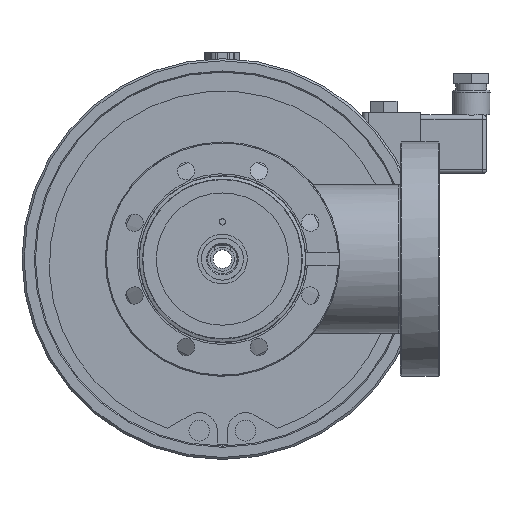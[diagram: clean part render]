
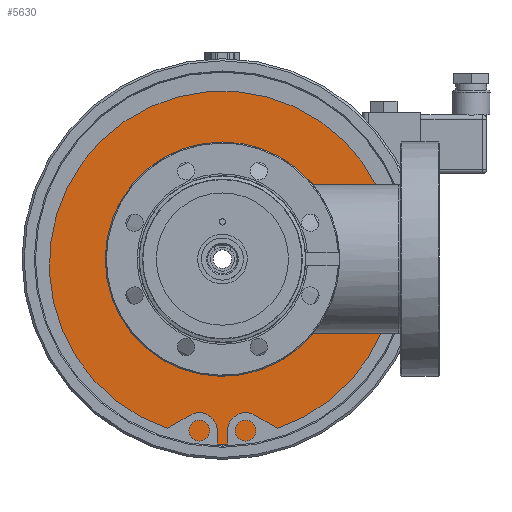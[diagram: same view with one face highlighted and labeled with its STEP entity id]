
A CAD part, left-side view. The second image highlights one B-rep face of the part: STEP entity #5630.
In plain terms, the highlighted planar face has unit normal (-1, 0, 0).
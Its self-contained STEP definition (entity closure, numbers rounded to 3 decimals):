
#4043=PLANE('',#20142);
#4770=FACE_BOUND('',#7572,.T.);
#4771=FACE_BOUND('',#7573,.T.);
#5630=ADVANCED_FACE('',(#4770,#4771),#4043,.T.);
#7572=EDGE_LOOP('',(#10875));
#7573=EDGE_LOOP('',(#10876));
#10875=ORIENTED_EDGE('',*,*,#17102,.T.);
#10876=ORIENTED_EDGE('',*,*,#17101,.F.);
#15272=VERTEX_POINT('',#26440);
#15273=VERTEX_POINT('',#26443);
#17101=EDGE_CURVE('',#15272,#15272,#19324,.T.);
#17102=EDGE_CURVE('',#15273,#15273,#19325,.T.);
#19324=CIRCLE('',#20139,35.);
#19325=CIRCLE('',#20141,89.9);
#20139=AXIS2_PLACEMENT_3D('',#26439,#22088,#22089);
#20141=AXIS2_PLACEMENT_3D('',#26442,#22092,#22093);
#20142=AXIS2_PLACEMENT_3D('',#26444,#22094,#22095);
#22088=DIRECTION('',(-1.,0.,0.));
#22089=DIRECTION('',(0.,0.,1.));
#22092=DIRECTION('',(-1.,0.,0.));
#22093=DIRECTION('',(0.,0.,1.));
#22094=DIRECTION('',(-1.,0.,0.));
#22095=DIRECTION('',(0.,0.,1.));
#26439=CARTESIAN_POINT('',(1.5,0.,0.));
#26440=CARTESIAN_POINT('',(1.5,0.,35.));
#26442=CARTESIAN_POINT('',(1.5,0.,0.));
#26443=CARTESIAN_POINT('',(1.5,0.,89.9));
#26444=CARTESIAN_POINT('',(1.5,35.,0.));
